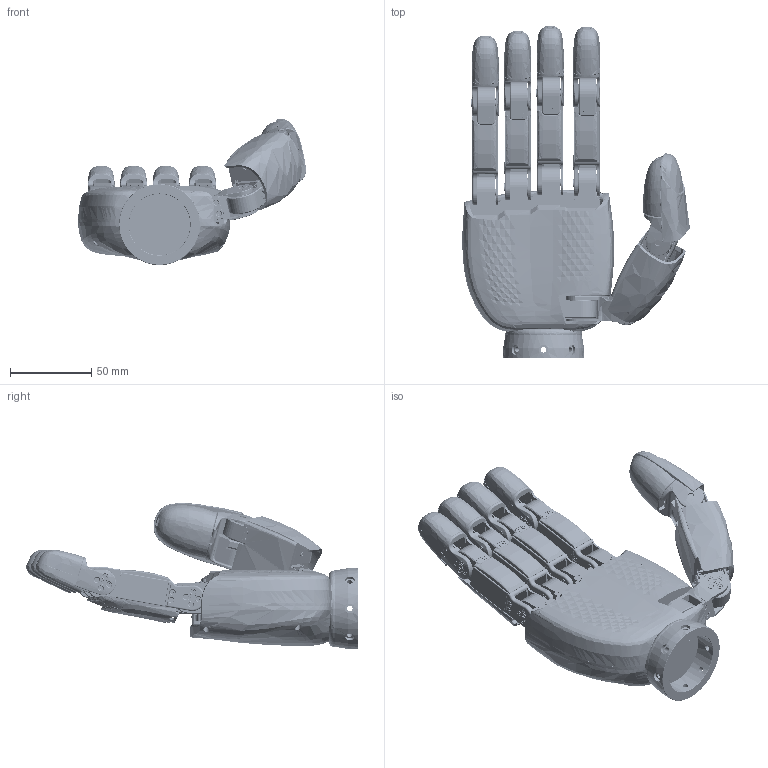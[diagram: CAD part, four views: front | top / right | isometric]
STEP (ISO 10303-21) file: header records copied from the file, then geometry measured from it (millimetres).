
FILE_DESCRIPTION (( 'STEP AP214' ), '1' );
FILE_NAME ('MH2.25衵忒-嘐隅耀倰.STEP', '2025-02-19T08:35:44', ( '' ), ( '' ), 'SwSTEP 2.0', 'SolidWorks 2024', '' );
FILE_SCHEMA (( 'AUTOMOTIVE_DESIGN' ));
Length unit declared in the file: millimetre
Products named in the file (1): MH2.25右手-固定模型
Bounding box: 140.37 x 204.6 x 90.17 mm (x, y, z)
Volume: 361010.6 mm3; surface area: 161729.1 mm2
Topology: 13 solids, 95 shells, 9973 faces, 26436 edges, 16394 vertices
Faces by surface type: plane 4568, cylinder 2405, bspline 2022, cone 665, torus 273, sphere 40
Entity records: 657070 total; most frequent: CARTESIAN_POINT 319192, ORIENTED_EDGE 51852, DIRECTION 41641, EDGE_CURVE 25926, VERTEX_POINT 16392, AXIS2_PLACEMENT_3D 14134, VECTOR 13373, LINE 13373
